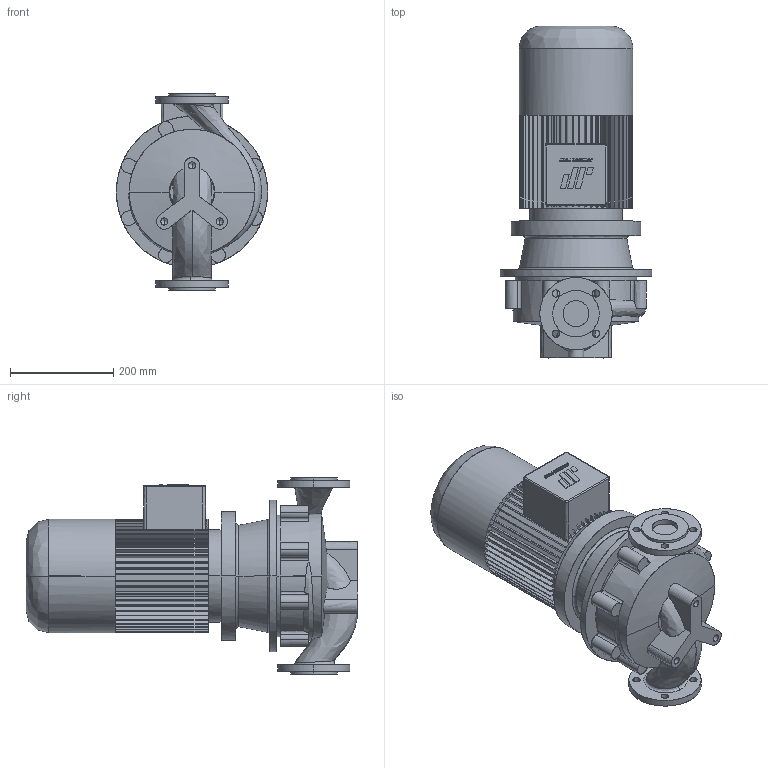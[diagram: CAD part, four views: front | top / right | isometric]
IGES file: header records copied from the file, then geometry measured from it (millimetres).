
Start section: CombiLine
Global section: file name: CLB_50-200_IEC112M.igs; native system:  By UGS Corp.; preprocessor: XPlus GENERIC/IGES 3.0; author: Stageplaats; organization: Johnson Pump Water B.V.; date: 20070713.131326; units: millimetre
Bounding box: 293 x 642.5 x 380 mm (x, y, z)
Surface area: 962597 mm2 (no closed solid volume)
Topology: 0 solids, 0 shells, 546 faces, 3324 edges, 3318 vertices
Faces by surface type: bspline 546
